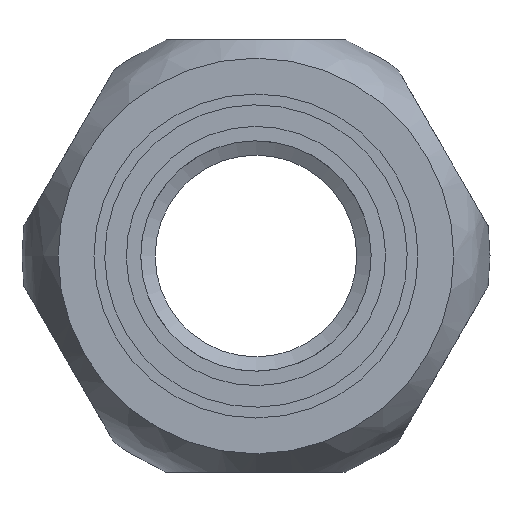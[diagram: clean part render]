
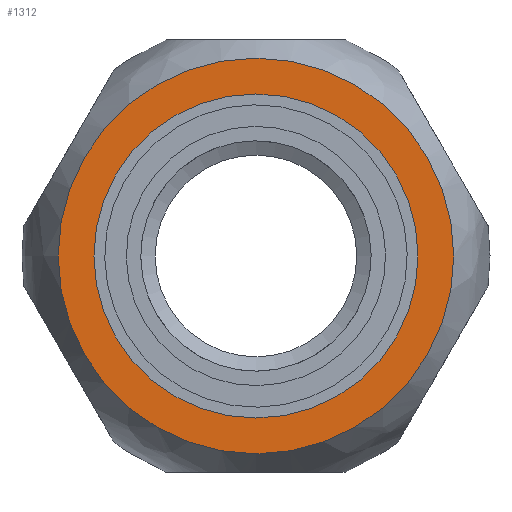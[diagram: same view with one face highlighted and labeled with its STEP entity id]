
A CAD part, left-side view. The second image highlights one B-rep face of the part: STEP entity #1312.
In plain terms, the highlighted planar face has unit normal (-1, 0, 0).
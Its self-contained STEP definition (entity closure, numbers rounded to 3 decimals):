
#1209=CARTESIAN_POINT('',(0.0,13.735,0.0));
#1210=VERTEX_POINT('',#1209);
#1211=CARTESIAN_POINT('',(0.0,0.0,0.0));
#1212=DIRECTION('',(1.0,0.0,0.0));
#1213=DIRECTION('',(0.0,1.0,0.0));
#1214=AXIS2_PLACEMENT_3D('',#1211,#1212,#1213);
#1215=CIRCLE('',#1214,13.735);
#1216=EDGE_CURVE('',#1210,#1210,#1215,.T.);
#1286=CARTESIAN_POINT('',(0.0,11.25,0.0));
#1287=VERTEX_POINT('',#1286);
#1288=CARTESIAN_POINT('',(0.0,0.0,0.0));
#1289=DIRECTION('',(1.0,0.0,0.0));
#1290=DIRECTION('',(0.0,1.0,0.0));
#1291=AXIS2_PLACEMENT_3D('',#1288,#1289,#1290);
#1292=CIRCLE('',#1291,11.25);
#1293=EDGE_CURVE('',#1287,#1287,#1292,.T.);
#1301=CARTESIAN_POINT('',(0.0,12.493,0.0));
#1302=DIRECTION('',(-1.0,0.0,0.0));
#1303=DIRECTION('',(0.0,0.0,1.0));
#1304=AXIS2_PLACEMENT_3D('',#1301,#1302,#1303);
#1305=PLANE('',#1304);
#1306=ORIENTED_EDGE('',*,*,#1216,.F.);
#1307=EDGE_LOOP('',(#1306));
#1308=FACE_OUTER_BOUND('',#1307,.T.);
#1309=ORIENTED_EDGE('',*,*,#1293,.T.);
#1310=EDGE_LOOP('',(#1309));
#1311=FACE_BOUND('',#1310,.T.);
#1312=ADVANCED_FACE('',(#1308,#1311),#1305,.T.);
